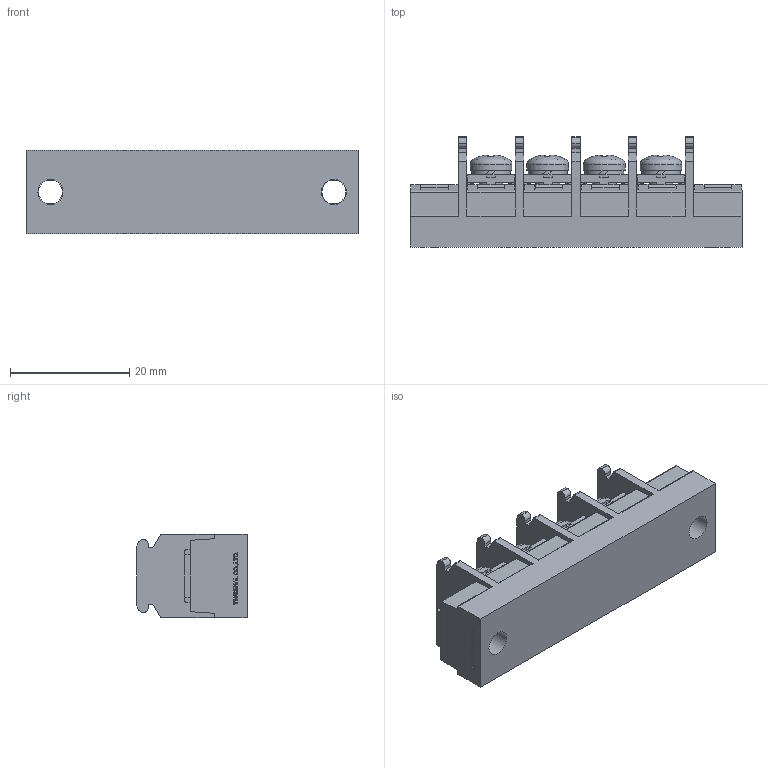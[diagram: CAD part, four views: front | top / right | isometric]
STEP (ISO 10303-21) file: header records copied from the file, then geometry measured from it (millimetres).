
FILE_DESCRIPTION(/* description */ ('Alibre Inc.'),/* implementation_level */ '2;1');
FILE_NAME(/* name */ 'export-4B33ACBD-3765-4C8B-A2C9-C89D3F2681F5',/* time_stamp */ '2021-02-13T15:47:54+09:00',/* author */ (''),/* organization */ (''),/* preprocessor_version */ 'ST-DEVELOPER v17',/* originating_system */ 'Alibre',/* authorisation */ '');
FILE_SCHEMA (('CONFIG_CONTROL_DESIGN'));
Length unit declared in the file: millimetre
Bounding box: 55.7 x 18.5 x 14 mm (x, y, z)
Volume: 8644 mm3; surface area: 5764.1 mm2
Topology: 1 solids, 21 shells, 907 faces, 2530 edges, 1674 vertices
Faces by surface type: plane 671, bspline 104, cylinder 100, cone 20, torus 8, sphere 4
Full cylindrical faces by diameter (mm): 4 x10, 4.2 x2, 7 x4
Entity records: 27792 total; most frequent: CARTESIAN_POINT 6013, ORIENTED_EDGE 4984, DIRECTION 3413, EDGE_CURVE 2492, VECTOR 1843, LINE 1843, VERTEX_POINT 1664, AXIS2_PLACEMENT_3D 1098
